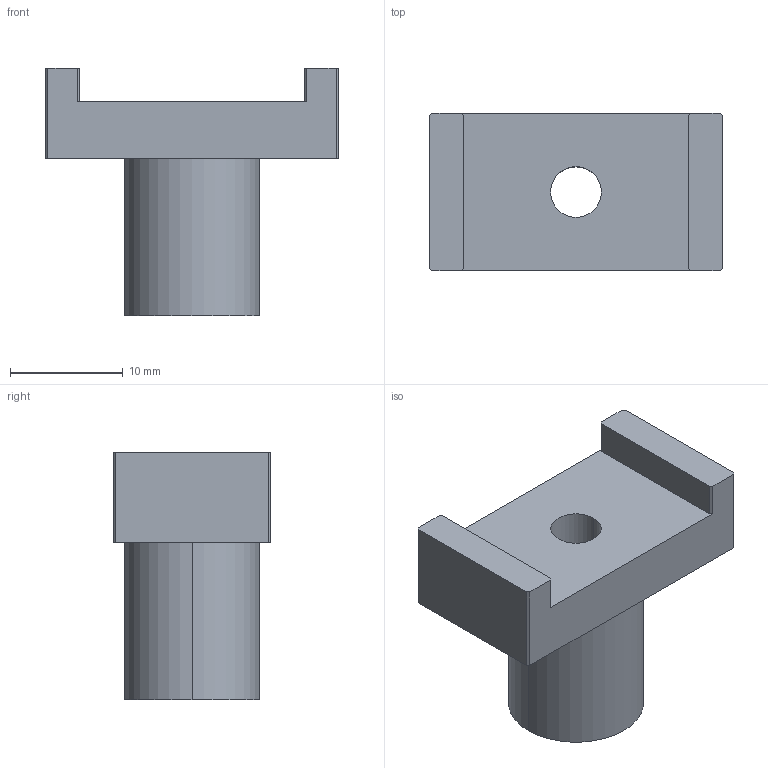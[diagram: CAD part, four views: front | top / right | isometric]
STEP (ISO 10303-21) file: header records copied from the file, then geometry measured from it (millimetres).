
FILE_DESCRIPTION (( 'STEP AP214' ), '1' );
FILE_NAME ('SMBR1-12.STEP', '2019-11-07T02:35:56', ( '微软用户' ), ( '微软中国' ), 'SwSTEP 2.0', 'SolidWorks 2016', '' );
FILE_SCHEMA (( 'AUTOMOTIVE_DESIGN' ));
Length unit declared in the file: millimetre
Products named in the file (1): SMBR1-12
Bounding box: 26 x 14 x 22 mm (x, y, z)
Volume: 3197.7 mm3; surface area: 2140.8 mm2
Topology: 1 solids, 1 shells, 26 faces, 66 edges, 44 vertices
Faces by surface type: plane 20, cylinder 6
Entity records: 820 total; most frequent: CARTESIAN_POINT 137, DIRECTION 132, ORIENTED_EDGE 132, EDGE_CURVE 66, VECTOR 54, LINE 54, VERTEX_POINT 44, AXIS2_PLACEMENT_3D 39
